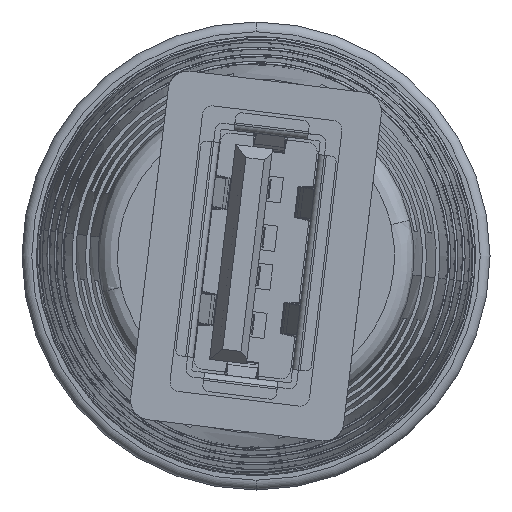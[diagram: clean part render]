
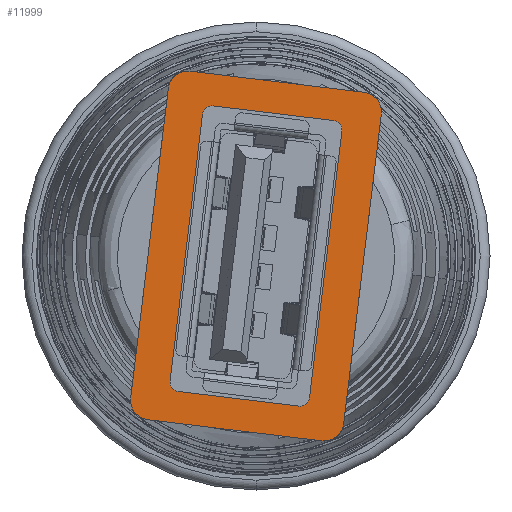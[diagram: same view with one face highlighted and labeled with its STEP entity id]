
A CAD part, left-side view. The second image highlights one B-rep face of the part: STEP entity #11999.
In plain terms, the highlighted planar face has unit normal (-1, 0, 0) as drawn and (0, 1, 0) by its records, which use the part's own axes.
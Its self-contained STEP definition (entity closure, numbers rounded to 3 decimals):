
#4969 = CARTESIAN_POINT ( 'NONE',  ( -9., 0., 4.5 ) ) ;
#4977 = CARTESIAN_POINT ( 'NONE',  ( 8., 0., 5.5 ) ) ;
#4999 = CARTESIAN_POINT ( 'NONE',  ( -9., 0., -4.5 ) ) ;
#5041 = CARTESIAN_POINT ( 'NONE',  ( 7.375, 0., 3.1 ) ) ;
#5065 = CARTESIAN_POINT ( 'NONE',  ( -7.375, 0., -3.1 ) ) ;
#5070 = CARTESIAN_POINT ( 'NONE',  ( -8., 0., 5.5 ) ) ;
#5086 = CARTESIAN_POINT ( 'NONE',  ( -7.375, 0., 3.1 ) ) ;
#6054 = VERTEX_POINT ( 'NONE', #7229 ) ;
#6058 = VERTEX_POINT ( 'NONE', #7233 ) ;
#6780 = VERTEX_POINT ( 'NONE', #7559 ) ;
#6809 = VERTEX_POINT ( 'NONE', #7585 ) ;
#6812 = VERTEX_POINT ( 'NONE', #7588 ) ;
#6822 = VERTEX_POINT ( 'NONE', #7598 ) ;
#6846 = VERTEX_POINT ( 'NONE', #7622 ) ;
#6858 = VERTEX_POINT ( 'NONE', #7634 ) ;
#6861 = VERTEX_POINT ( 'NONE', #7637 ) ;
#7229 = CARTESIAN_POINT ( 'NONE',  ( 9., 0., -4.5 ) ) ;
#7233 = CARTESIAN_POINT ( 'NONE',  ( 9., 0., 4.5 ) ) ;
#7559 = CARTESIAN_POINT ( 'NONE',  ( 6.875, 0., 3.6 ) ) ;
#7585 = CARTESIAN_POINT ( 'NONE',  ( 6.875, 0., -3.6 ) ) ;
#7588 = CARTESIAN_POINT ( 'NONE',  ( 8., 0., -5.5 ) ) ;
#7598 = CARTESIAN_POINT ( 'NONE',  ( -6.875, 0., -3.6 ) ) ;
#7622 = CARTESIAN_POINT ( 'NONE',  ( 7.375, 0., -3.1 ) ) ;
#7634 = CARTESIAN_POINT ( 'NONE',  ( -6.875, 0., 3.6 ) ) ;
#7637 = CARTESIAN_POINT ( 'NONE',  ( -8., 0., -5.5 ) ) ;
#7968 = AXIS2_PLACEMENT_3D ( 'NONE', #12651, #12652, #12653 ) ;
#7969 = AXIS2_PLACEMENT_3D ( 'NONE', #12656, #12657, #12658 ) ;
#7970 = AXIS2_PLACEMENT_3D ( 'NONE', #12660, #12661, #12662 ) ;
#7971 = AXIS2_PLACEMENT_3D ( 'NONE', #12665, #12666, #12667 ) ;
#7972 = AXIS2_PLACEMENT_3D ( 'NONE', #12670, #12671, #12672 ) ;
#7973 = AXIS2_PLACEMENT_3D ( 'NONE', #12674, #12675, #12676 ) ;
#7974 = AXIS2_PLACEMENT_3D ( 'NONE', #12679, #12680, #12681 ) ;
#7975 = AXIS2_PLACEMENT_3D ( 'NONE', #12685, #12686, #12687 ) ;
#11999 = ADVANCED_FACE ( 'NONE', ( #27084, #27082 ), #30337, .F. ) ;
#12230 = VERTEX_POINT ( 'NONE', #4969 ) ;
#12233 = VERTEX_POINT ( 'NONE', #4977 ) ;
#12242 = VERTEX_POINT ( 'NONE', #4999 ) ;
#12286 = VERTEX_POINT ( 'NONE', #5041 ) ;
#12309 = VERTEX_POINT ( 'NONE', #5065 ) ;
#12314 = VERTEX_POINT ( 'NONE', #5070 ) ;
#12330 = VERTEX_POINT ( 'NONE', #5086 ) ;
#12607 = CARTESIAN_POINT ( 'NONE',  ( 9., 0., 5.5 ) ) ;
#12609 = DIRECTION ( 'NONE',  ( 0., 0., -1. ) ) ;
#12626 = DIRECTION ( 'NONE',  ( 1., 0., 0. ) ) ;
#12630 = CARTESIAN_POINT ( 'NONE',  ( -7.375, 0., 3.6 ) ) ;
#12648 = DIRECTION ( 'NONE',  ( 0., 0., 1. ) ) ;
#12649 = DIRECTION ( 'NONE',  ( -1., 0., 0. ) ) ;
#12650 = CARTESIAN_POINT ( 'NONE',  ( -7.375, 0., -3.6 ) ) ;
#12651 = CARTESIAN_POINT ( 'NONE',  ( -6.875, 0., 3.1 ) ) ;
#12652 = DIRECTION ( 'NONE',  ( 0., -1., 0. ) ) ;
#12653 = DIRECTION ( 'NONE',  ( 0., 0., -1. ) ) ;
#12654 = CARTESIAN_POINT ( 'NONE',  ( -7.375, 0., -3.6 ) ) ;
#12655 = DIRECTION ( 'NONE',  ( 0., 0., -1. ) ) ;
#12656 = CARTESIAN_POINT ( 'NONE',  ( -6.875, 0., -3.1 ) ) ;
#12657 = DIRECTION ( 'NONE',  ( 0., -1., 0. ) ) ;
#12658 = DIRECTION ( 'NONE',  ( 0., 0., -1. ) ) ;
#12659 = CARTESIAN_POINT ( 'NONE',  ( 7.375, 0., -3.6 ) ) ;
#12660 = CARTESIAN_POINT ( 'NONE',  ( 6.875, 0., -3.1 ) ) ;
#12661 = DIRECTION ( 'NONE',  ( 0., -1., 0. ) ) ;
#12662 = DIRECTION ( 'NONE',  ( 0., 0., -1. ) ) ;
#12663 = CARTESIAN_POINT ( 'NONE',  ( -9., 0., -5.5 ) ) ;
#12664 = DIRECTION ( 'NONE',  ( -1., 0., 0. ) ) ;
#12665 = CARTESIAN_POINT ( 'NONE',  ( 6.875, 0., 3.1 ) ) ;
#12666 = DIRECTION ( 'NONE',  ( 0., -1., 0. ) ) ;
#12667 = DIRECTION ( 'NONE',  ( 0., 0., -1. ) ) ;
#12668 = CARTESIAN_POINT ( 'NONE',  ( -9., 0., 5.5 ) ) ;
#12669 = DIRECTION ( 'NONE',  ( 0., 0., -1. ) ) ;
#12670 = CARTESIAN_POINT ( 'NONE',  ( 8., 0., -4.5 ) ) ;
#12671 = DIRECTION ( 'NONE',  ( 0., 1., 0. ) ) ;
#12672 = DIRECTION ( 'NONE',  ( 0., 0., -1. ) ) ;
#12673 = DIRECTION ( 'NONE',  ( -1., 0., 0. ) ) ;
#12674 = CARTESIAN_POINT ( 'NONE',  ( -8., 0., -4.5 ) ) ;
#12675 = DIRECTION ( 'NONE',  ( 0., 1., 0. ) ) ;
#12676 = DIRECTION ( 'NONE',  ( 0., 0., -1. ) ) ;
#12677 = CARTESIAN_POINT ( 'NONE',  ( -9., 0., 5.5 ) ) ;
#12679 = CARTESIAN_POINT ( 'NONE',  ( -8., 0., 4.5 ) ) ;
#12680 = DIRECTION ( 'NONE',  ( 0., 1., 0. ) ) ;
#12681 = DIRECTION ( 'NONE',  ( 0., 0., -1. ) ) ;
#12685 = CARTESIAN_POINT ( 'NONE',  ( 8., 0., 4.5 ) ) ;
#12686 = DIRECTION ( 'NONE',  ( 0., 1., 0. ) ) ;
#12687 = DIRECTION ( 'NONE',  ( 0., 0., -1. ) ) ;
#18250 = ORIENTED_EDGE ( 'NONE', *, *, #22439, .F. ) ;
#18251 = ORIENTED_EDGE ( 'NONE', *, *, #22440, .T. ) ;
#18252 = ORIENTED_EDGE ( 'NONE', *, *, #22441, .F. ) ;
#18253 = ORIENTED_EDGE ( 'NONE', *, *, #22442, .T. ) ;
#18254 = ORIENTED_EDGE ( 'NONE', *, *, #22443, .F. ) ;
#18255 = ORIENTED_EDGE ( 'NONE', *, *, #22444, .T. ) ;
#18256 = ORIENTED_EDGE ( 'NONE', *, *, #22445, .F. ) ;
#18257 = ORIENTED_EDGE ( 'NONE', *, *, #22446, .T. ) ;
#18258 = ORIENTED_EDGE ( 'NONE', *, *, #22423, .T. ) ;
#18259 = ORIENTED_EDGE ( 'NONE', *, *, #22447, .T. ) ;
#18260 = ORIENTED_EDGE ( 'NONE', *, *, #22448, .T. ) ;
#18261 = ORIENTED_EDGE ( 'NONE', *, *, #22449, .T. ) ;
#18262 = ORIENTED_EDGE ( 'NONE', *, *, #22450, .F. ) ;
#18263 = ORIENTED_EDGE ( 'NONE', *, *, #22451, .T. ) ;
#18264 = ORIENTED_EDGE ( 'NONE', *, *, #22452, .F. ) ;
#18265 = ORIENTED_EDGE ( 'NONE', *, *, #22453, .T. ) ;
#22423 = EDGE_CURVE ( 'NONE', #6058, #6054, #26738, .T. ) ;
#22439 = EDGE_CURVE ( 'NONE', #6858, #6780, #26763, .T. ) ;
#22440 = EDGE_CURVE ( 'NONE', #6858, #12330, #26747, .T. ) ;
#22441 = EDGE_CURVE ( 'NONE', #12309, #12330, #26764, .T. ) ;
#22442 = EDGE_CURVE ( 'NONE', #12309, #6822, #26766, .T. ) ;
#22443 = EDGE_CURVE ( 'NONE', #6809, #6822, #26769, .T. ) ;
#22444 = EDGE_CURVE ( 'NONE', #6809, #6846, #26767, .T. ) ;
#22445 = EDGE_CURVE ( 'NONE', #12286, #6846, #26772, .T. ) ;
#22446 = EDGE_CURVE ( 'NONE', #12286, #6780, #26770, .T. ) ;
#22447 = EDGE_CURVE ( 'NONE', #6054, #6812, #26775, .T. ) ;
#22448 = EDGE_CURVE ( 'NONE', #6812, #6861, #26776, .T. ) ;
#22449 = EDGE_CURVE ( 'NONE', #6861, #12242, #26777, .T. ) ;
#22450 = EDGE_CURVE ( 'NONE', #12230, #12242, #26779, .T. ) ;
#22451 = EDGE_CURVE ( 'NONE', #12230, #12314, #26773, .T. ) ;
#22452 = EDGE_CURVE ( 'NONE', #12233, #12314, #26782, .T. ) ;
#22453 = EDGE_CURVE ( 'NONE', #12233, #6058, #26780, .T. ) ;
#26738 = LINE ( 'NONE', #12607, #26741 ) ;
#26741 = VECTOR ( 'NONE', #12609, 1000. ) ;
#26747 = CIRCLE ( 'NONE', #7968, 0.5 ) ;
#26763 = LINE ( 'NONE', #12630, #26765 ) ;
#26764 = LINE ( 'NONE', #12650, #26768 ) ;
#26765 = VECTOR ( 'NONE', #12626, 1000. ) ;
#26766 = CIRCLE ( 'NONE', #7969, 0.5 ) ;
#26767 = CIRCLE ( 'NONE', #7970, 0.5 ) ;
#26768 = VECTOR ( 'NONE', #12648, 1000. ) ;
#26769 = LINE ( 'NONE', #12654, #26771 ) ;
#26770 = CIRCLE ( 'NONE', #7971, 0.5 ) ;
#26771 = VECTOR ( 'NONE', #12649, 1000. ) ;
#26772 = LINE ( 'NONE', #12659, #26774 ) ;
#26773 = CIRCLE ( 'NONE', #7974, 1. ) ;
#26774 = VECTOR ( 'NONE', #12655, 1000. ) ;
#26775 = CIRCLE ( 'NONE', #7972, 1. ) ;
#26776 = LINE ( 'NONE', #12663, #26778 ) ;
#26777 = CIRCLE ( 'NONE', #7973, 1. ) ;
#26778 = VECTOR ( 'NONE', #12664, 1000. ) ;
#26779 = LINE ( 'NONE', #12668, #26781 ) ;
#26780 = CIRCLE ( 'NONE', #7975, 1. ) ;
#26781 = VECTOR ( 'NONE', #12669, 1000. ) ;
#26782 = LINE ( 'NONE', #12677, #26783 ) ;
#26783 = VECTOR ( 'NONE', #12673, 1000. ) ;
#27082 = FACE_OUTER_BOUND ( 'NONE', #28160, .T. ) ;
#27084 = FACE_BOUND ( 'NONE', #28076, .T. ) ;
#27951 = AXIS2_PLACEMENT_3D ( 'NONE', #30331, #30339, #30340 ) ;
#28076 = EDGE_LOOP ( 'NONE', ( #18250, #18251, #18252, #18253, #18254, #18255, #18256, #18257 ) ) ;
#28160 = EDGE_LOOP ( 'NONE', ( #18258, #18259, #18260, #18261, #18262, #18263, #18264, #18265 ) ) ;
#30331 = CARTESIAN_POINT ( 'NONE',  ( -9., 0., 5.5 ) ) ;
#30337 = PLANE ( 'NONE',  #27951 ) ;
#30339 = DIRECTION ( 'NONE',  ( 0., -1., 0. ) ) ;
#30340 = DIRECTION ( 'NONE',  ( 0., 0., -1. ) ) ;
